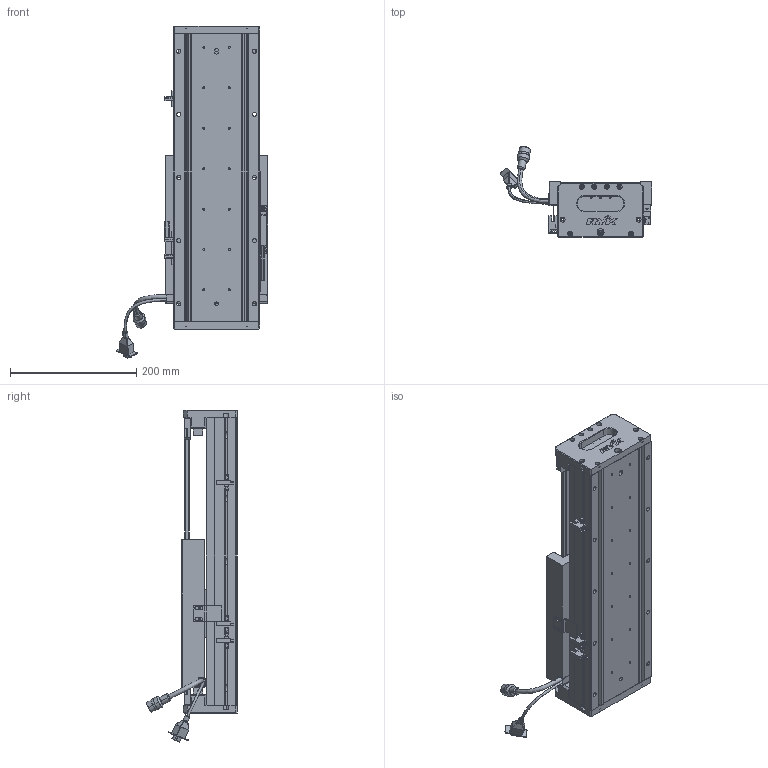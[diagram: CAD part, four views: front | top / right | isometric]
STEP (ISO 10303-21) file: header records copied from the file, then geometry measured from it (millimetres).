
FILE_DESCRIPTION (( 'STEP AP203' ), '1' );
FILE_NAME ('Z3-RY140D-1-L500-B-K.SLDASM_0150.step', '2021-05-17T07:59:50', ( '盈信电脑' ), ( '东莞市道滘镇水果街19号' ), 'SwSTEP 2.0', 'SolidWorks 2016', '' );
FILE_SCHEMA (( 'CONFIG_CONTROL_DESIGN' ));
Length unit declared in the file: millimetre
Products named in the file (36): SCREW-M1.6-1; 榋妏寠巭燃_暯_M2_2; 140雄赽晤鎢ん堤盄; SCALE; SEAL-Part-1; Z3-RY140D-1-L500-B-K.SLDASM_0150; HARNESS; 140蚥薯蝶輸; PBU_SHEET; Z3-RY140-L500直线电机模组底座_0150; HOLDER0; HARNESS-Part-2; Z-RY140詩湍奻揤裔; LABEL-Part-1; SCREW-M1.6; SHIELDPLATE; Z3-RY140-L500詩湍100mm遵_0150; HARNESS-Part-1; Z-RY140詩湍狟揤裔; SCALE-Part-1; SCREW-M1.6-3; 覜茼ん672; Z-140詩湍傷裔啣; SCREW-M1.7; SCREW-M1.6-2; 140-Z-臏賑輸盄裔(21遴); Z-RY140感应器672光电感应片; SEAL; 080黍杅芛假蚾釱21遴; LABEL; COVER; SCREW-M1.7-1; COVER-Part-1; Z3-RY140圉猾敕臏賑輸(21遴); SCALE-Part-2; PSLH080_PSLF2
Assembly tree (41 placements, depth 4):
  Z3-RY140D-1-L500-B-K.SLDASM_0150
    Z3-RY140-L500直线电机模组底座_0150
    Z-RY140感应器672光电感应片
    Z3-RY140圉猾敕臏賑輸(21遴)
    覜茼ん672  x3
    Z3-RY140-L500詩湍100mm遵_0150
    PSLH080_PSLF2
      SCALE
        SCALE-Part-1
        SCALE-Part-2
      HARNESS
        HARNESS-Part-1
        HARNESS-Part-2
      LABEL
        LABEL-Part-1
      COVER
        COVER-Part-1
      SEAL
        SEAL-Part-1
      榋妏寠巭燃_暯_M2_2
      SHIELDPLATE
      SCREW-M1.7
      SCREW-M1.7-1
      PBU_SHEET
      SCREW-M1.6
      SCREW-M1.6-1
      SCREW-M1.6-2
      SCREW-M1.6-3
      HOLDER0
    080黍杅芛假蚾釱21遴
    140-Z-臏賑輸盄裔(21遴)
    Z-140詩湍傷裔啣  x2
    Z-RY140詩湍狟揤裔  x2
    Z-RY140詩湍奻揤裔  x2
    140蚥薯蝶輸  x2
    140雄赽晤鎢ん堤盄
Bounding box: 239.84 x 143.88 x 525.88 mm (x, y, z)
Volume: 2486785.7 mm3; surface area: 633244.2 mm2
Topology: 36 solids, 36 shells, 2596 faces, 6736 edges, 4263 vertices
Faces by surface type: cylinder 1138, plane 1074, cone 262, torus 69, bspline 53
Entity records: 73012 total; most frequent: CARTESIAN_POINT 17247, DIRECTION 10936, ORIENTED_EDGE 10672, EDGE_CURVE 5336, AXIS2_PLACEMENT_3D 4000, VERTEX_POINT 3431, LINE 2936, VECTOR 2936
